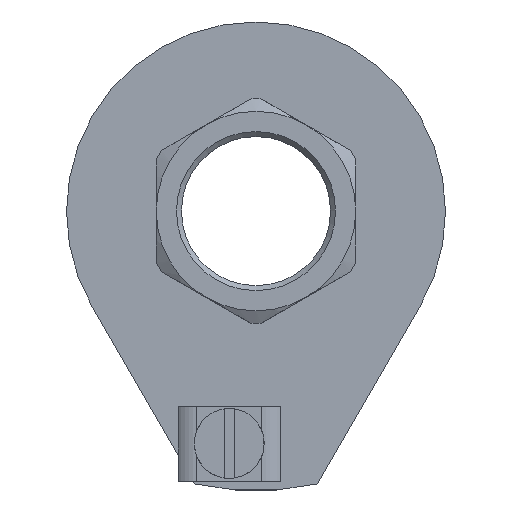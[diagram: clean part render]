
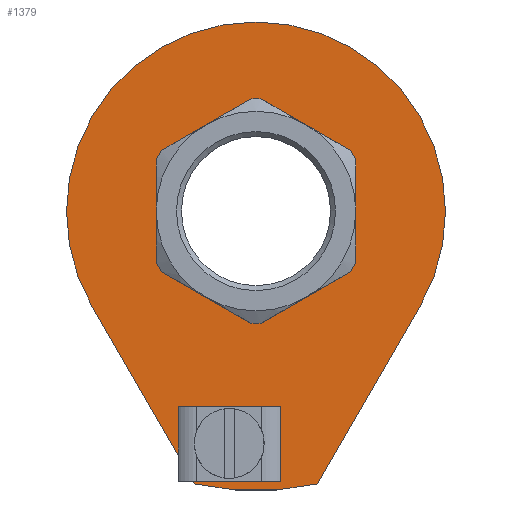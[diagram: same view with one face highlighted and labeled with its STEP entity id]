
A CAD part, top view. The second image highlights one B-rep face of the part: STEP entity #1379.
In plain terms, the highlighted planar face has unit normal (0, 0, 1).
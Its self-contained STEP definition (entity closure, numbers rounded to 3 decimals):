
#127=LINE('',#2154,#193);
#128=LINE('',#2158,#194);
#193=VECTOR('',#1806,1000.);
#194=VECTOR('',#1809,1000.);
#439=ORIENTED_EDGE('',*,*,#598,.T.);
#440=ORIENTED_EDGE('',*,*,#599,.T.);
#441=ORIENTED_EDGE('',*,*,#600,.T.);
#442=ORIENTED_EDGE('',*,*,#601,.T.);
#443=ORIENTED_EDGE('',*,*,#602,.T.);
#444=ORIENTED_EDGE('',*,*,#603,.F.);
#598=EDGE_CURVE('',#699,#699,#760,.F.);
#599=EDGE_CURVE('',#700,#701,#761,.T.);
#600=EDGE_CURVE('',#701,#702,#127,.T.);
#601=EDGE_CURVE('',#702,#703,#762,.T.);
#602=EDGE_CURVE('',#703,#700,#128,.T.);
#603=EDGE_CURVE('',#704,#704,#763,.T.);
#699=VERTEX_POINT('',#2150);
#700=VERTEX_POINT('',#2152);
#701=VERTEX_POINT('',#2153);
#702=VERTEX_POINT('',#2155);
#703=VERTEX_POINT('',#2157);
#704=VERTEX_POINT('',#2160);
#760=CIRCLE('',#1509,1.721);
#761=CIRCLE('',#1510,28.);
#762=CIRCLE('',#1511,19.);
#763=CIRCLE('',#1512,8.75);
#840=EDGE_LOOP('',(#439));
#841=EDGE_LOOP('',(#440,#441,#442,#443));
#842=EDGE_LOOP('',(#444));
#930=FACE_BOUND('',#840,.T.);
#931=FACE_BOUND('',#841,.T.);
#932=FACE_BOUND('',#842,.T.);
#981=PLANE('',#1508);
#1379=ADVANCED_FACE('',(#930,#931,#932),#981,.T.);
#1508=AXIS2_PLACEMENT_3D('',#2148,#1800,#1801);
#1509=AXIS2_PLACEMENT_3D('',#2149,#1802,#1803);
#1510=AXIS2_PLACEMENT_3D('',#2151,#1804,#1805);
#1511=AXIS2_PLACEMENT_3D('',#2156,#1807,#1808);
#1512=AXIS2_PLACEMENT_3D('',#2159,#1810,#1811);
#1800=DIRECTION('',(0.,0.,1.));
#1801=DIRECTION('',(1.,0.,0.));
#1802=DIRECTION('',(0.,0.,1.));
#1803=DIRECTION('',(1.,0.,0.));
#1804=DIRECTION('',(0.,0.,1.));
#1805=DIRECTION('',(1.,0.,0.));
#1806=DIRECTION('',(0.5,0.866,0.));
#1807=DIRECTION('',(0.,0.,1.));
#1808=DIRECTION('',(1.,0.,0.));
#1809=DIRECTION('',(0.5,-0.866,0.));
#1810=DIRECTION('',(0.,0.,1.));
#1811=DIRECTION('',(1.,0.,0.));
#2148=CARTESIAN_POINT('',(5.459,-12.023,0.8));
#2149=CARTESIAN_POINT('',(-2.7,-23.346,0.8));
#2150=CARTESIAN_POINT('',(-0.979,-23.346,0.8));
#2151=CARTESIAN_POINT('',(0.,0.,0.8));
#2152=CARTESIAN_POINT('',(-6.171,-27.312,0.8));
#2153=CARTESIAN_POINT('',(6.171,-27.312,0.8));
#2154=CARTESIAN_POINT('',(6.171,-27.312,0.8));
#2155=CARTESIAN_POINT('',(16.454,-9.5,0.8));
#2156=CARTESIAN_POINT('',(0.,0.,0.8));
#2157=CARTESIAN_POINT('',(-16.454,-9.5,0.8));
#2158=CARTESIAN_POINT('',(-16.454,-9.5,0.8));
#2159=CARTESIAN_POINT('',(0.,0.,0.8));
#2160=CARTESIAN_POINT('',(8.75,0.,0.8));
